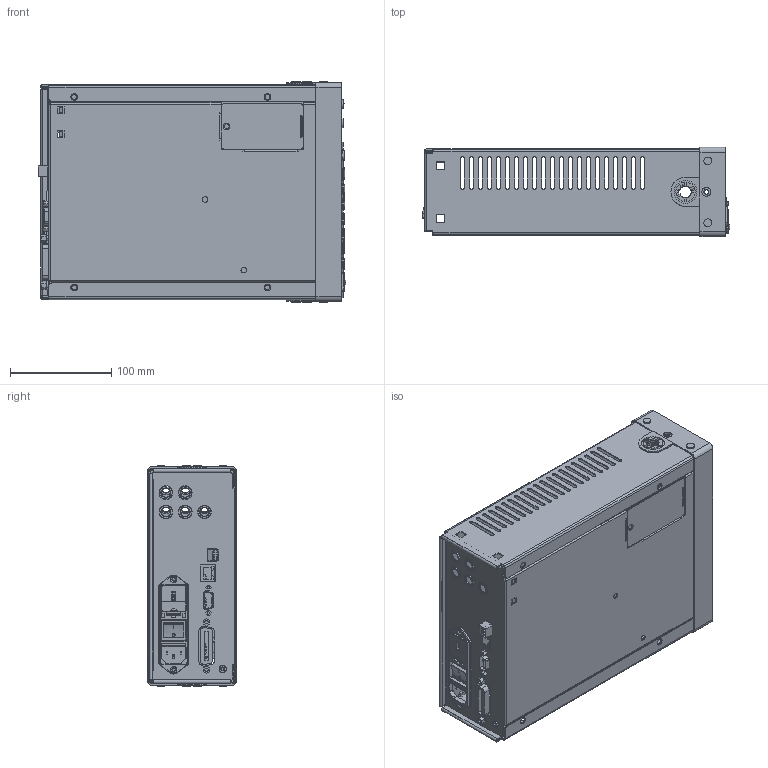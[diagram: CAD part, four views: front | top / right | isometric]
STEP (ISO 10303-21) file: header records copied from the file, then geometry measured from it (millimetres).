
FILE_DESCRIPTION((''),'2;1');
FILE_NAME('PRT0001','2018-12-11T',('rames'),(''),'CREO PARAMETRIC BY PTC INC, 2016380','CREO PARAMETRIC BY PTC INC, 2016380','');
FILE_SCHEMA(('CONFIG_CONTROL_DESIGN'));
Products named in the file (1): PRT0001
Bounding box: 303.35 x 87.89 x 218.31 mm (x, y, z)
Volume: 232434.9 mm3; surface area: 422930.7 mm2
Topology: 51 solids, 51 shells, 2058 faces, 5433 edges, 3529 vertices
Faces by surface type: plane 914, cylinder 715, bspline 160, cone 157, torus 64, extrusion 40, sphere 8
Entity records: 74215 total; most frequent: CARTESIAN_POINT 24490, ORIENTED_EDGE 10850, DIRECTION 9378, EDGE_CURVE 5425, VERTEX_POINT 3529, AXIS2_PLACEMENT_3D 3230, VECTOR 2918, LINE 2878
